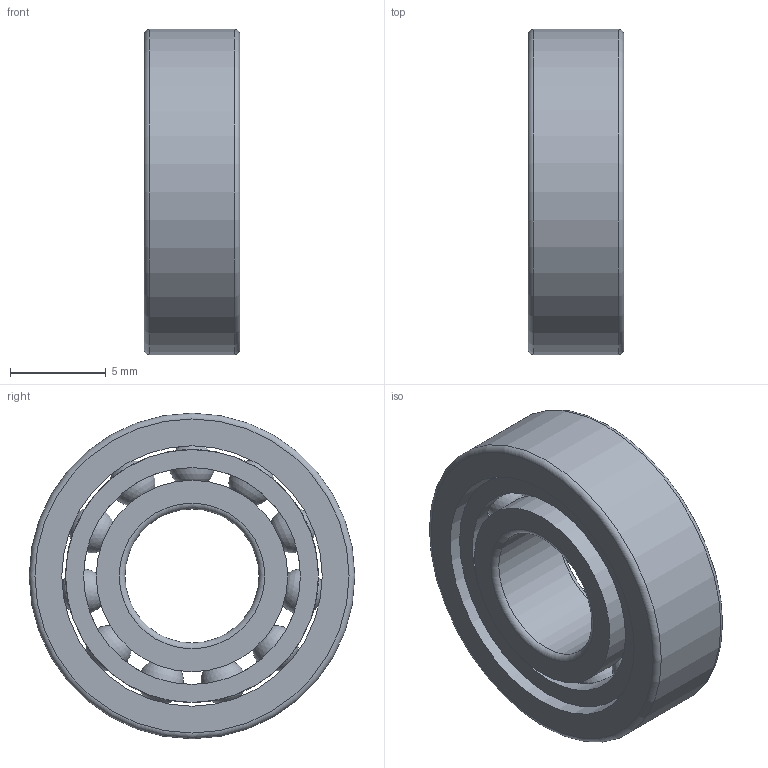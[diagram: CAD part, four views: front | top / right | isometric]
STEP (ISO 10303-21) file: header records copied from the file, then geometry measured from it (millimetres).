
FILE_DESCRIPTION(/* description */ (''),/* implementation_level */ '2;1');
FILE_NAME(/* name */ 'S_6197_TA.step',/* time_stamp */ '2013-03-06T14:46:41+01:00',/* author */ ('Marian'),/* organization */ ('GMN'),/* preprocessor_version */ 'ST-DEVELOPER v11',/* originating_system */ 'SIEMENS UGS NX 6.0',/* authorisation */ '');
FILE_SCHEMA (('CONFIG_CONTROL_DESIGN'));
Length unit declared in the file: millimetre
Products named in the file (1): S_6197_TA
Bounding box: 5 x 17 x 17 mm (x, y, z)
Volume: 734.4 mm3; surface area: 1515.3 mm2
Topology: 14 solids, 14 shells, 42 faces, 100 edges, 64 vertices
Faces by surface type: cylinder 18, sphere 11, torus 6, plane 6, cone 1
Full cylindrical faces by diameter (mm): 2.581 x11, 7 x1, 10 x2, 11.321 x1, 13.2 x1, 13.6 x1, 17 x1
Entity records: 2192 total; most frequent: CARTESIAN_POINT 1392, DIRECTION 126, FACE_BOUND 95, EDGE_LOOP 84, ORIENTED_EDGE 84, AXIS2_PLACEMENT_3D 63, VERTEX_POINT 53, EDGE_CURVE 42
